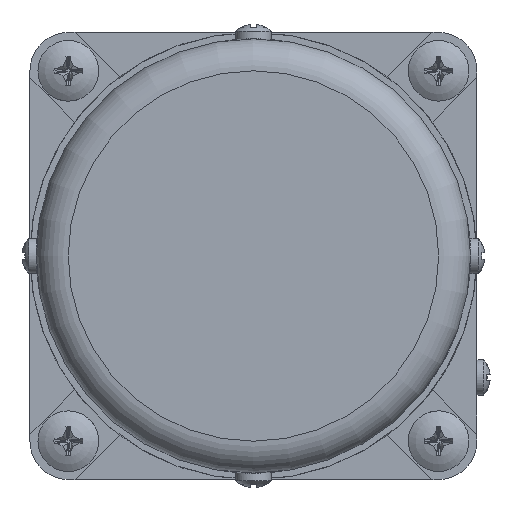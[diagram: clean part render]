
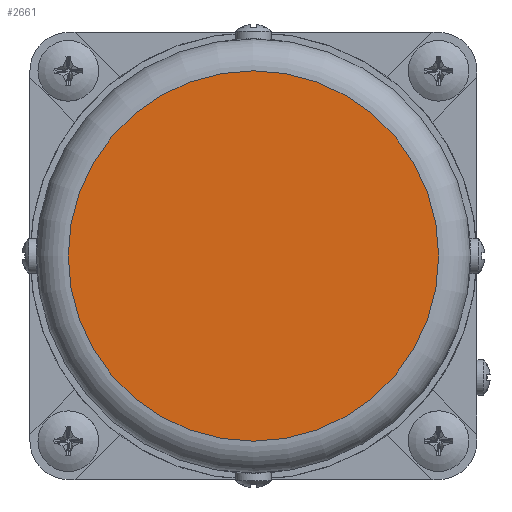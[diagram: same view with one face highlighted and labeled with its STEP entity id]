
A CAD part, left-side view. The second image highlights one B-rep face of the part: STEP entity #2661.
In plain terms, the highlighted planar face has unit normal (-1, 0, 0).
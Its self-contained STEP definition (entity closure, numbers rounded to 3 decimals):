
#1947=FACE_OUTER_BOUND('',#3848,.T.);
#2163=PLANE('',#8553);
#2661=ADVANCED_FACE('',(#1947),#2163,.F.);
#3848=EDGE_LOOP('',(#5326));
#5326=ORIENTED_EDGE('',*,*,#7230,.T.);
#6367=VERTEX_POINT('',#13670);
#7230=EDGE_CURVE('',#6367,#6367,#7764,.T.);
#7764=CIRCLE('',#8552,29.);
#8552=AXIS2_PLACEMENT_3D('',#13669,#9842,#9843);
#8553=AXIS2_PLACEMENT_3D('',#13671,#9844,#9845);
#9842=DIRECTION('',(-1.,0.,0.));
#9843=DIRECTION('',(0.,0.,1.));
#9844=DIRECTION('',(1.,0.,0.));
#9845=DIRECTION('',(0.,0.,1.));
#13669=CARTESIAN_POINT('',(-134.,0.,0.));
#13670=CARTESIAN_POINT('',(-134.,0.,29.));
#13671=CARTESIAN_POINT('',(-134.,0.,0.));
